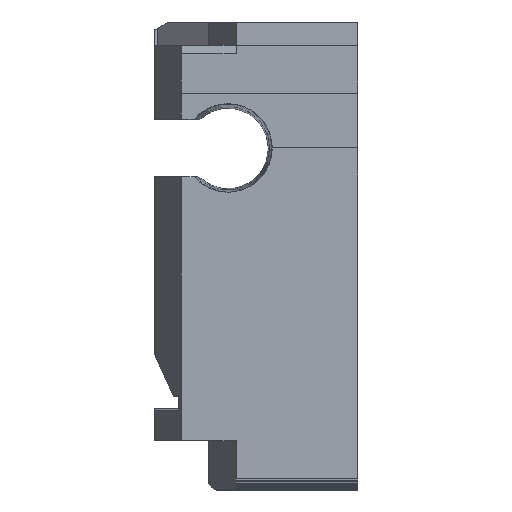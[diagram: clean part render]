
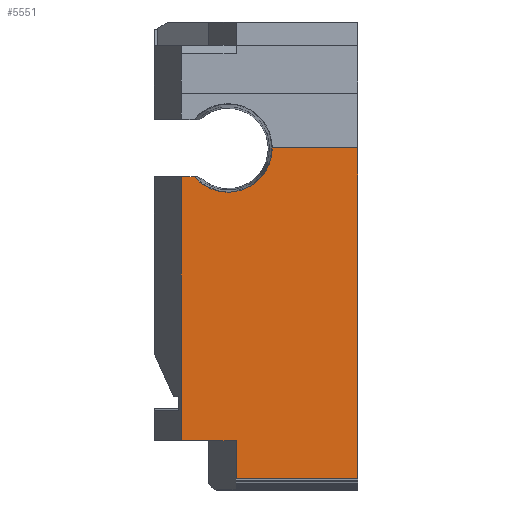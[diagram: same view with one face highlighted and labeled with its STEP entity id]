
A CAD part, top view. The second image highlights one B-rep face of the part: STEP entity #5551.
In plain terms, the highlighted planar face has unit normal (0, 0, 1).
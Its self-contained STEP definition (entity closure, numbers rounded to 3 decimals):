
#32 = PLANE('',#33);
#33 = AXIS2_PLACEMENT_3D('',#34,#35,#36);
#34 = CARTESIAN_POINT('',(15.,135.,-0.1));
#35 = DIRECTION('',(1.,0.,-0.));
#36 = DIRECTION('',(0.,0.,1.));
#133 = VERTEX_POINT('',#134);
#134 = CARTESIAN_POINT('',(15.,170.,23.5));
#147 = PLANE('',#148);
#148 = AXIS2_PLACEMENT_3D('',#149,#150,#151);
#149 = CARTESIAN_POINT('',(168.,170.,22.4));
#150 = DIRECTION('',(0.,-1.,0.));
#151 = DIRECTION('',(-1.,0.,0.));
#158 = EDGE_CURVE('',#133,#159,#161,.T.);
#159 = VERTEX_POINT('',#160);
#160 = CARTESIAN_POINT('',(15.,145.8,23.5));
#161 = SURFACE_CURVE('',#162,(#166,#172),.PCURVE_S1.);
#162 = LINE('',#163,#164);
#163 = CARTESIAN_POINT('',(15.,-5.4,23.5));
#164 = VECTOR('',#165,1.);
#165 = DIRECTION('',(0.,-1.,0.));
#166 = PCURVE('',#32,#167);
#167 = DEFINITIONAL_REPRESENTATION('',(#168),#171);
#168 = B_SPLINE_CURVE_WITH_KNOTS('',1,(#169,#170),.UNSPECIFIED.,.F.,.F.,
  (2,2),(-175.4,-140.4),.PIECEWISE_BEZIER_KNOTS.);
#169 = CARTESIAN_POINT('',(23.6,-35.));
#170 = CARTESIAN_POINT('',(23.6,0.));
#171 = ( GEOMETRIC_REPRESENTATION_CONTEXT(2) 
PARAMETRIC_REPRESENTATION_CONTEXT() REPRESENTATION_CONTEXT('2D SPACE',''
  ) );
#172 = PCURVE('',#173,#178);
#173 = PLANE('',#174);
#174 = AXIS2_PLACEMENT_3D('',#175,#176,#177);
#175 = CARTESIAN_POINT('',(126.7,-145.8,23.5));
#176 = DIRECTION('',(-0.,0.,1.));
#177 = DIRECTION('',(0.,-1.,0.));
#178 = DEFINITIONAL_REPRESENTATION('',(#179),#182);
#179 = B_SPLINE_CURVE_WITH_KNOTS('',1,(#180,#181),.UNSPECIFIED.,.F.,.F.,
  (2,2),(-175.4,-140.4),.PIECEWISE_BEZIER_KNOTS.);
#180 = CARTESIAN_POINT('',(-315.8,-111.7));
#181 = CARTESIAN_POINT('',(-280.8,-111.7));
#182 = ( GEOMETRIC_REPRESENTATION_CONTEXT(2) 
PARAMETRIC_REPRESENTATION_CONTEXT() REPRESENTATION_CONTEXT('2D SPACE',''
  ) );
#199 = PLANE('',#200);
#200 = AXIS2_PLACEMENT_3D('',#201,#202,#203);
#201 = CARTESIAN_POINT('',(-160.,145.696,23.493));
#202 = DIRECTION('',(0.,-0.065,0.998));
#203 = DIRECTION('',(0.,0.998,0.065));
#2478 = PLANE('',#2479);
#2479 = AXIS2_PLACEMENT_3D('',#2480,#2481,#2482);
#2480 = CARTESIAN_POINT('',(4.1,167.9,8.9));
#2481 = DIRECTION('',(0.,1.,-0.));
#2482 = DIRECTION('',(-1.,0.,0.));
#4295 = PLANE('',#4296);
#4296 = AXIS2_PLACEMENT_3D('',#4297,#4298,#4299);
#4297 = CARTESIAN_POINT('',(0.1,148.6,8.9));
#4298 = DIRECTION('',(0.,-1.,0.));
#4299 = DIRECTION('',(1.,0.,0.));
#4956 = PLANE('',#4957);
#4957 = AXIS2_PLACEMENT_3D('',#4958,#4959,#4960);
#4958 = CARTESIAN_POINT('',(6.1,148.6,23.35));
#4959 = DIRECTION('',(-1.,0.,0.));
#4960 = DIRECTION('',(0.,-1.,0.));
#5508 = EDGE_CURVE('',#5509,#159,#5511,.T.);
#5509 = VERTEX_POINT('',#5510);
#5510 = CARTESIAN_POINT('',(6.1,145.8,23.5));
#5511 = SURFACE_CURVE('',#5512,(#5516,#5523),.PCURVE_S1.);
#5512 = LINE('',#5513,#5514);
#5513 = CARTESIAN_POINT('',(-160.,145.8,23.5));
#5514 = VECTOR('',#5515,1.);
#5515 = DIRECTION('',(1.,0.,0.));
#5516 = PCURVE('',#199,#5517);
#5517 = DEFINITIONAL_REPRESENTATION('',(#5518),#5522);
#5518 = LINE('',#5519,#5520);
#5519 = CARTESIAN_POINT('',(0.105,0.));
#5520 = VECTOR('',#5521,1.);
#5521 = DIRECTION('',(0.,-1.));
#5522 = ( GEOMETRIC_REPRESENTATION_CONTEXT(2) 
PARAMETRIC_REPRESENTATION_CONTEXT() REPRESENTATION_CONTEXT('2D SPACE',''
  ) );
#5523 = PCURVE('',#173,#5524);
#5524 = DEFINITIONAL_REPRESENTATION('',(#5525),#5529);
#5525 = LINE('',#5526,#5527);
#5526 = CARTESIAN_POINT('',(-291.6,-286.7));
#5527 = VECTOR('',#5528,1.);
#5528 = DIRECTION('',(0.,1.));
#5529 = ( GEOMETRIC_REPRESENTATION_CONTEXT(2) 
PARAMETRIC_REPRESENTATION_CONTEXT() REPRESENTATION_CONTEXT('2D SPACE',''
  ) );
#5551 = ADVANCED_FACE('',(#5552),#173,.T.);
#5552 = FACE_BOUND('',#5553,.T.);
#5553 = EDGE_LOOP('',(#5554,#5555,#5576,#5605,#5626,#5652,#5673,#5692));
#5554 = ORIENTED_EDGE('',*,*,#158,.F.);
#5555 = ORIENTED_EDGE('',*,*,#5556,.F.);
#5556 = EDGE_CURVE('',#5557,#133,#5559,.T.);
#5557 = VERTEX_POINT('',#5558);
#5558 = CARTESIAN_POINT('',(8.74,170.,23.5));
#5559 = SURFACE_CURVE('',#5560,(#5564,#5570),.PCURVE_S1.);
#5560 = LINE('',#5561,#5562);
#5561 = CARTESIAN_POINT('',(147.35,170.,23.5));
#5562 = VECTOR('',#5563,1.);
#5563 = DIRECTION('',(1.,0.,0.));
#5564 = PCURVE('',#173,#5565);
#5565 = DEFINITIONAL_REPRESENTATION('',(#5566),#5569);
#5566 = B_SPLINE_CURVE_WITH_KNOTS('',1,(#5567,#5568),.UNSPECIFIED.,.F.,
  .F.,(2,2),(-315.35,20.65),.PIECEWISE_BEZIER_KNOTS.);
#5567 = CARTESIAN_POINT('',(-315.8,-294.7));
#5568 = CARTESIAN_POINT('',(-315.8,41.3));
#5569 = ( GEOMETRIC_REPRESENTATION_CONTEXT(2) 
PARAMETRIC_REPRESENTATION_CONTEXT() REPRESENTATION_CONTEXT('2D SPACE',''
  ) );
#5570 = PCURVE('',#147,#5571);
#5571 = DEFINITIONAL_REPRESENTATION('',(#5572),#5575);
#5572 = B_SPLINE_CURVE_WITH_KNOTS('',1,(#5573,#5574),.UNSPECIFIED.,.F.,
  .F.,(2,2),(-315.35,20.65),.PIECEWISE_BEZIER_KNOTS.);
#5573 = CARTESIAN_POINT('',(336.,-1.1));
#5574 = CARTESIAN_POINT('',(0.,-1.1));
#5575 = ( GEOMETRIC_REPRESENTATION_CONTEXT(2) 
PARAMETRIC_REPRESENTATION_CONTEXT() REPRESENTATION_CONTEXT('2D SPACE',''
  ) );
#5576 = ORIENTED_EDGE('',*,*,#5577,.F.);
#5577 = EDGE_CURVE('',#5578,#5557,#5580,.T.);
#5578 = VERTEX_POINT('',#5579);
#5579 = CARTESIAN_POINT('',(3.033,167.9,23.5));
#5580 = SURFACE_CURVE('',#5581,(#5586,#5593),.PCURVE_S1.);
#5581 = CIRCLE('',#5582,3.24);
#5582 = AXIS2_PLACEMENT_3D('',#5583,#5584,#5585);
#5583 = CARTESIAN_POINT('',(5.5,170.,23.5));
#5584 = DIRECTION('',(0.,0.,1.));
#5585 = DIRECTION('',(1.,0.,-0.));
#5586 = PCURVE('',#173,#5587);
#5587 = DEFINITIONAL_REPRESENTATION('',(#5588),#5592);
#5588 = CIRCLE('',#5589,3.24);
#5589 = AXIS2_PLACEMENT_2D('',#5590,#5591);
#5590 = CARTESIAN_POINT('',(-315.8,-121.2));
#5591 = DIRECTION('',(0.,1.));
#5592 = ( GEOMETRIC_REPRESENTATION_CONTEXT(2) 
PARAMETRIC_REPRESENTATION_CONTEXT() REPRESENTATION_CONTEXT('2D SPACE',''
  ) );
#5593 = PCURVE('',#5594,#5599);
#5594 = CYLINDRICAL_SURFACE('',#5595,3.24);
#5595 = AXIS2_PLACEMENT_3D('',#5596,#5597,#5598);
#5596 = CARTESIAN_POINT('',(5.5,170.,23.45));
#5597 = DIRECTION('',(0.,0.,1.));
#5598 = DIRECTION('',(1.,0.,-0.));
#5599 = DEFINITIONAL_REPRESENTATION('',(#5600),#5604);
#5600 = LINE('',#5601,#5602);
#5601 = CARTESIAN_POINT('',(0.,0.05));
#5602 = VECTOR('',#5603,1.);
#5603 = DIRECTION('',(1.,0.));
#5604 = ( GEOMETRIC_REPRESENTATION_CONTEXT(2) 
PARAMETRIC_REPRESENTATION_CONTEXT() REPRESENTATION_CONTEXT('2D SPACE',''
  ) );
#5605 = ORIENTED_EDGE('',*,*,#5606,.T.);
#5606 = EDGE_CURVE('',#5578,#5607,#5609,.T.);
#5607 = VERTEX_POINT('',#5608);
#5608 = CARTESIAN_POINT('',(2.1,167.9,23.5));
#5609 = SURFACE_CURVE('',#5610,(#5614,#5620),.PCURVE_S1.);
#5610 = LINE('',#5611,#5612);
#5611 = CARTESIAN_POINT('',(65.4,167.9,23.5));
#5612 = VECTOR('',#5613,1.);
#5613 = DIRECTION('',(-1.,0.,-0.));
#5614 = PCURVE('',#173,#5615);
#5615 = DEFINITIONAL_REPRESENTATION('',(#5616),#5619);
#5616 = B_SPLINE_CURVE_WITH_KNOTS('',1,(#5617,#5618),.UNSPECIFIED.,.F.,
  .F.,(2,2),(61.958,65.3),.PIECEWISE_BEZIER_KNOTS.);
#5617 = CARTESIAN_POINT('',(-313.7,-123.258));
#5618 = CARTESIAN_POINT('',(-313.7,-126.6));
#5619 = ( GEOMETRIC_REPRESENTATION_CONTEXT(2) 
PARAMETRIC_REPRESENTATION_CONTEXT() REPRESENTATION_CONTEXT('2D SPACE',''
  ) );
#5620 = PCURVE('',#2478,#5621);
#5621 = DEFINITIONAL_REPRESENTATION('',(#5622),#5625);
#5622 = B_SPLINE_CURVE_WITH_KNOTS('',1,(#5623,#5624),.UNSPECIFIED.,.F.,
  .F.,(2,2),(61.958,65.3),.PIECEWISE_BEZIER_KNOTS.);
#5623 = CARTESIAN_POINT('',(0.658,14.6));
#5624 = CARTESIAN_POINT('',(4.,14.6));
#5625 = ( GEOMETRIC_REPRESENTATION_CONTEXT(2) 
PARAMETRIC_REPRESENTATION_CONTEXT() REPRESENTATION_CONTEXT('2D SPACE',''
  ) );
#5626 = ORIENTED_EDGE('',*,*,#5627,.T.);
#5627 = EDGE_CURVE('',#5607,#5628,#5630,.T.);
#5628 = VERTEX_POINT('',#5629);
#5629 = CARTESIAN_POINT('',(2.1,148.6,23.5));
#5630 = SURFACE_CURVE('',#5631,(#5635,#5641),.PCURVE_S1.);
#5631 = LINE('',#5632,#5633);
#5632 = CARTESIAN_POINT('',(2.1,11.05,23.5));
#5633 = VECTOR('',#5634,1.);
#5634 = DIRECTION('',(0.,-1.,0.));
#5635 = PCURVE('',#173,#5636);
#5636 = DEFINITIONAL_REPRESENTATION('',(#5637),#5640);
#5637 = B_SPLINE_CURVE_WITH_KNOTS('',1,(#5638,#5639),.UNSPECIFIED.,.F.,
  .F.,(2,2),(-156.85,-137.55),.PIECEWISE_BEZIER_KNOTS.);
#5638 = CARTESIAN_POINT('',(-313.7,-124.6));
#5639 = CARTESIAN_POINT('',(-294.4,-124.6));
#5640 = ( GEOMETRIC_REPRESENTATION_CONTEXT(2) 
PARAMETRIC_REPRESENTATION_CONTEXT() REPRESENTATION_CONTEXT('2D SPACE',''
  ) );
#5641 = PCURVE('',#5642,#5647);
#5642 = PLANE('',#5643);
#5643 = AXIS2_PLACEMENT_3D('',#5644,#5645,#5646);
#5644 = CARTESIAN_POINT('',(2.1,167.9,23.35));
#5645 = DIRECTION('',(-1.,0.,0.));
#5646 = DIRECTION('',(0.,-1.,0.));
#5647 = DEFINITIONAL_REPRESENTATION('',(#5648),#5651);
#5648 = B_SPLINE_CURVE_WITH_KNOTS('',1,(#5649,#5650),.UNSPECIFIED.,.F.,
  .F.,(2,2),(-156.85,-137.55),.PIECEWISE_BEZIER_KNOTS.);
#5649 = CARTESIAN_POINT('',(0.,0.15));
#5650 = CARTESIAN_POINT('',(19.3,0.15));
#5651 = ( GEOMETRIC_REPRESENTATION_CONTEXT(2) 
PARAMETRIC_REPRESENTATION_CONTEXT() REPRESENTATION_CONTEXT('2D SPACE',''
  ) );
#5652 = ORIENTED_EDGE('',*,*,#5653,.T.);
#5653 = EDGE_CURVE('',#5628,#5654,#5656,.T.);
#5654 = VERTEX_POINT('',#5655);
#5655 = CARTESIAN_POINT('',(6.1,148.6,23.5));
#5656 = SURFACE_CURVE('',#5657,(#5661,#5667),.PCURVE_S1.);
#5657 = LINE('',#5658,#5659);
#5658 = CARTESIAN_POINT('',(63.4,148.6,23.5));
#5659 = VECTOR('',#5660,1.);
#5660 = DIRECTION('',(1.,0.,0.));
#5661 = PCURVE('',#173,#5662);
#5662 = DEFINITIONAL_REPRESENTATION('',(#5663),#5666);
#5663 = B_SPLINE_CURVE_WITH_KNOTS('',1,(#5664,#5665),.UNSPECIFIED.,.F.,
  .F.,(2,2),(-63.3,-57.3),.PIECEWISE_BEZIER_KNOTS.);
#5664 = CARTESIAN_POINT('',(-294.4,-126.6));
#5665 = CARTESIAN_POINT('',(-294.4,-120.6));
#5666 = ( GEOMETRIC_REPRESENTATION_CONTEXT(2) 
PARAMETRIC_REPRESENTATION_CONTEXT() REPRESENTATION_CONTEXT('2D SPACE',''
  ) );
#5667 = PCURVE('',#4295,#5668);
#5668 = DEFINITIONAL_REPRESENTATION('',(#5669),#5672);
#5669 = B_SPLINE_CURVE_WITH_KNOTS('',1,(#5670,#5671),.UNSPECIFIED.,.F.,
  .F.,(2,2),(-63.3,-57.3),.PIECEWISE_BEZIER_KNOTS.);
#5670 = CARTESIAN_POINT('',(0.,14.6));
#5671 = CARTESIAN_POINT('',(6.,14.6));
#5672 = ( GEOMETRIC_REPRESENTATION_CONTEXT(2) 
PARAMETRIC_REPRESENTATION_CONTEXT() REPRESENTATION_CONTEXT('2D SPACE',''
  ) );
#5673 = ORIENTED_EDGE('',*,*,#5674,.T.);
#5674 = EDGE_CURVE('',#5654,#5509,#5675,.T.);
#5675 = SURFACE_CURVE('',#5676,(#5680,#5686),.PCURVE_S1.);
#5676 = LINE('',#5677,#5678);
#5677 = CARTESIAN_POINT('',(6.1,1.4,23.5));
#5678 = VECTOR('',#5679,1.);
#5679 = DIRECTION('',(0.,-1.,0.));
#5680 = PCURVE('',#173,#5681);
#5681 = DEFINITIONAL_REPRESENTATION('',(#5682),#5685);
#5682 = B_SPLINE_CURVE_WITH_KNOTS('',1,(#5683,#5684),.UNSPECIFIED.,.F.,
  .F.,(2,2),(-147.2,-143.5),.PIECEWISE_BEZIER_KNOTS.);
#5683 = CARTESIAN_POINT('',(-294.4,-120.6));
#5684 = CARTESIAN_POINT('',(-290.7,-120.6));
#5685 = ( GEOMETRIC_REPRESENTATION_CONTEXT(2) 
PARAMETRIC_REPRESENTATION_CONTEXT() REPRESENTATION_CONTEXT('2D SPACE',''
  ) );
#5686 = PCURVE('',#4956,#5687);
#5687 = DEFINITIONAL_REPRESENTATION('',(#5688),#5691);
#5688 = B_SPLINE_CURVE_WITH_KNOTS('',1,(#5689,#5690),.UNSPECIFIED.,.F.,
  .F.,(2,2),(-147.2,-143.5),.PIECEWISE_BEZIER_KNOTS.);
#5689 = CARTESIAN_POINT('',(0.,0.15));
#5690 = CARTESIAN_POINT('',(3.7,0.15));
#5691 = ( GEOMETRIC_REPRESENTATION_CONTEXT(2) 
PARAMETRIC_REPRESENTATION_CONTEXT() REPRESENTATION_CONTEXT('2D SPACE',''
  ) );
#5692 = ORIENTED_EDGE('',*,*,#5508,.T.);
